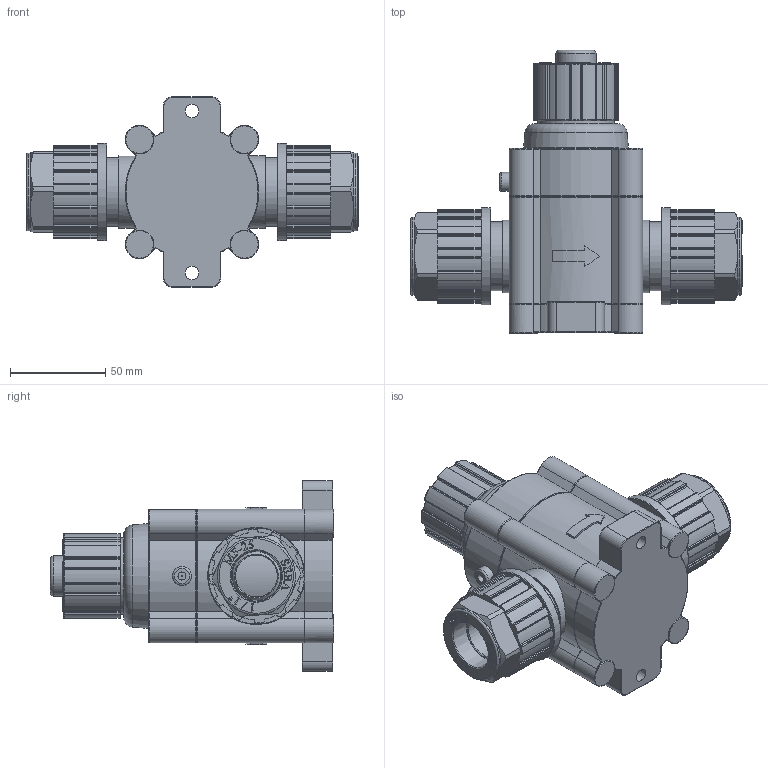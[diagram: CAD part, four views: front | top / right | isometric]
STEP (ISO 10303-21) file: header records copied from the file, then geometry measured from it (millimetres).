
FILE_DESCRIPTION(/* description */ (''),/* implementation_level */ '2;1');
FILE_NAME(/* name */ 'sdfsdf.stp',/* time_stamp */ '2020-01-20T11:12:55+09:00',/* author */ (''),/* organization */ (''),/* preprocessor_version */ 'ST-DEVELOPER v11',/* originating_system */ 'SIEMENS PLM Software NX 7.5',/* authorisation */ '');
FILE_SCHEMA (('AUTOMOTIVE_DESIGN { 1 0 10303 214 1 1 1 1 }'));
Length unit declared in the file: millimetre
Products named in the file (9): Stepping; shaft2; PFA_Nut; base; body; Cover; Handle; Case; SM-PA-MF025-C_stp
Assembly tree (9 placements, depth 3):
  SM-PA-MF025-C_stp
    Case
      Stepping
    Handle
    Cover
    body
    base
    PFA_Nut  x2
    shaft2
Bounding box: 174.1 x 148.5 x 100 mm (x, y, z)
Volume: 736373.2 mm3; surface area: 137549.5 mm2
Topology: 9 solids, 9 shells, 1774 faces, 4726 edges, 3048 vertices
Faces by surface type: plane 874, cylinder 463, bspline 232, torus 140, sphere 40, cone 25
Full cylindrical faces by diameter (mm): 1 x1, 4.2 x1, 6.5 x4, 6.6 x4, 7 x2, 10 x1, 15 x4, 21 x1, 22 x2, 26 x1, 28.8 x2, 32.7 x2, 33 x2, 36 x2, 38 x2, 40 x1, 41 x2, 51 x2, 60 x2
Entity records: 46908 total; most frequent: CARTESIAN_POINT 13223, ORIENTED_EDGE 7066, DIRECTION 6742, EDGE_CURVE 3533, VERTEX_POINT 2291, LINE 2262, VECTOR 2262, AXIS2_PLACEMENT_3D 2240
